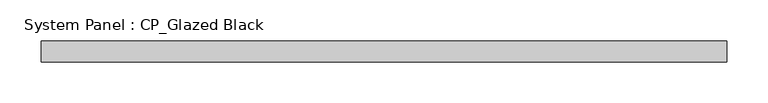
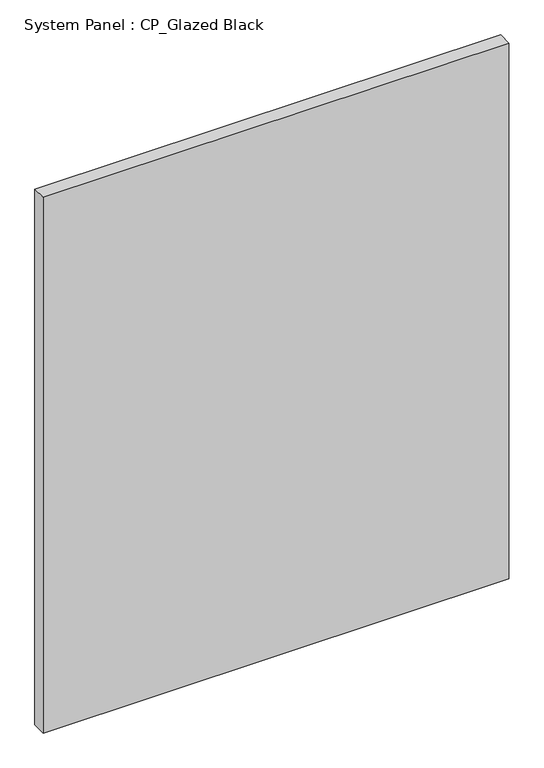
"""IFC4 building model written with IfcOpenShell, lengths in millimetres: plate geometry, System Panel : CP_Glazed Black."""

from ifc_helpers import new_model, si_unit, origin, origin_with_axes, place, context, project, spatial, polyline, outline, extrude, source, transform, mapped, element, save


def system_panel_cp_glazed_black_fa06f4d3(model_context):
    return source(origin(), model_context, "Body", "SweptSolid", [
        extrude(outline(polyline([(415.925, 19.05), (-415.925, 19.05), (-415.925, 44.45), (415.925, 44.45), (415.925, 19.05)])), origin_with_axes(), (0.0, 0.0, 1.0), 1012.03125),
    ])


if __name__ == "__main__":
    model = new_model("IFC4")
    model_context = context("Model", 3, world=origin())
    ifc_project = project(units=[si_unit("LENGTHUNIT", "METRE", prefix="MILLI")], contexts=[model_context])
    site = spatial("IfcSite", under=ifc_project)
    building = spatial("IfcBuilding", under=site)
    placement = place(None, origin())
    system_panel_cp_glazed_black_shape = system_panel_cp_glazed_black_fa06f4d3(model_context)
    element("IfcPlate", 1, ObjectType="System Panel : CP_Glazed Black", at=placement, inside=building, context=model_context, shape_type="MappedRepresentation", body=[
        mapped(system_panel_cp_glazed_black_shape, transform((0.0, 0.0, 0.0), x_axis=(1.0, 0.0, 0.0), y_axis=(0.0, 1.0, 0.0), z_axis=(0.0, 0.0, 1.0))),
    ])
    save(model, "model.ifc")
